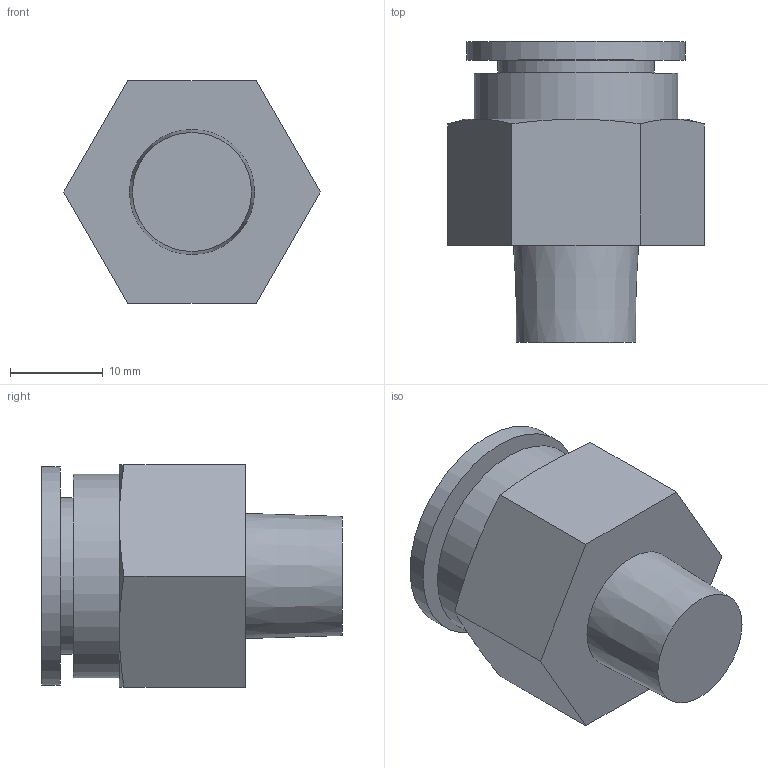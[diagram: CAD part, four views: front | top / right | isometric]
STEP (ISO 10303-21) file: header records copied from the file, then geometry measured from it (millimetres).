
FILE_DESCRIPTION(/* description */ ('STEP AP214'),/* implementation_level */ '2;1');
FILE_NAME(/* name */ 'KQ2H16-02AS',/* time_stamp */ '2023-03-09T07:20:04+01:00',/* author */ ('License CC BY-ND 4.0'),/* organization */ ('CADENAS'),/* preprocessor_version */ 'ST-DEVELOPER v18.102',/* originating_system */ 'PARTsolutions',/* authorisation */ ' ');
FILE_SCHEMA (('AUTOMOTIVE_DESIGN {1 0 10303 214 3 1 1}'));
Length unit declared in the file: millimetre
Products named in the file (1): KQ2H16-02AS
Bounding box: 27.71 x 32.5 x 24 mm (x, y, z)
Volume: 7161.8 mm3; surface area: 4565 mm2
Topology: 1 solids, 1 shells, 24 faces, 45 edges, 28 vertices
Faces by surface type: plane 13, cone 7, cylinder 4
Full cylindrical faces by diameter (mm): 16 x1, 16.95 x1, 22 x1, 23.6 x1
Entity records: 614 total; most frequent: CARTESIAN_POINT 129, DIRECTION 94, ORIENTED_EDGE 80, AXIS2_PLACEMENT_3D 41, EDGE_CURVE 40, EDGE_LOOP 34, FACE_BOUND 34, VERTEX_POINT 28
